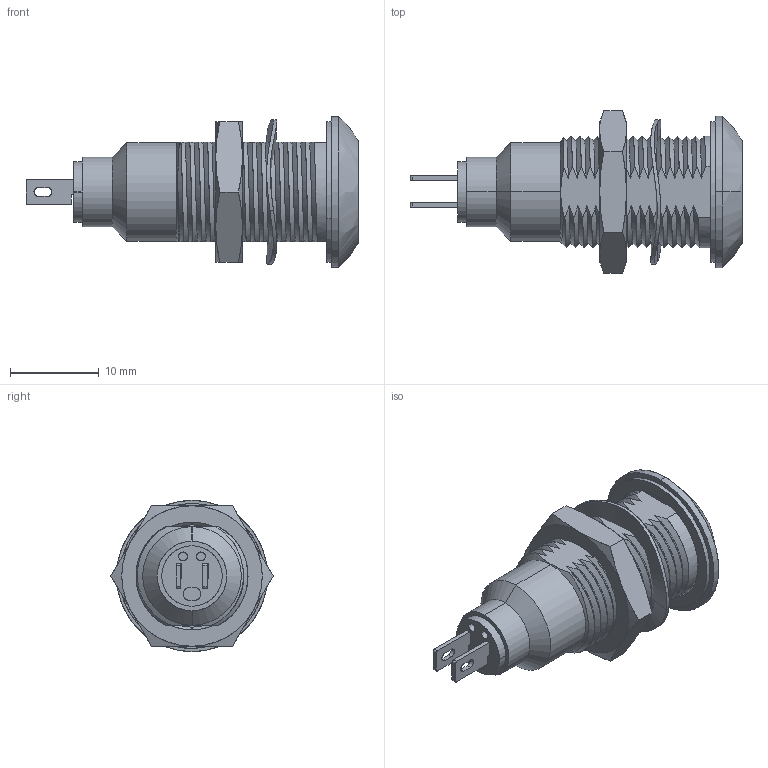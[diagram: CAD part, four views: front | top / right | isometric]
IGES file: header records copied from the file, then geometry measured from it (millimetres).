
Start section: SolidWorks IGES file using analytic representation for surfaces
Global section: file name: G:\Marl\DESIGN\Paul Robson\STEP-IGES FILES\699 Series\699 Series  Below 50V.IGS; native system: SolidWorks 2016; preprocessor: SolidWorks 2016; author: Paulr; date: 160804.161638; units: millimetre
Bounding box: 37.35 x 18.24 x 17 mm (x, y, z)
Surface area: 3910.1 mm2 (no closed solid volume)
Topology: 0 solids, 0 shells, 464 faces, 5421 edges, 5415 vertices
Faces by surface type: bspline 311, revolution 153
